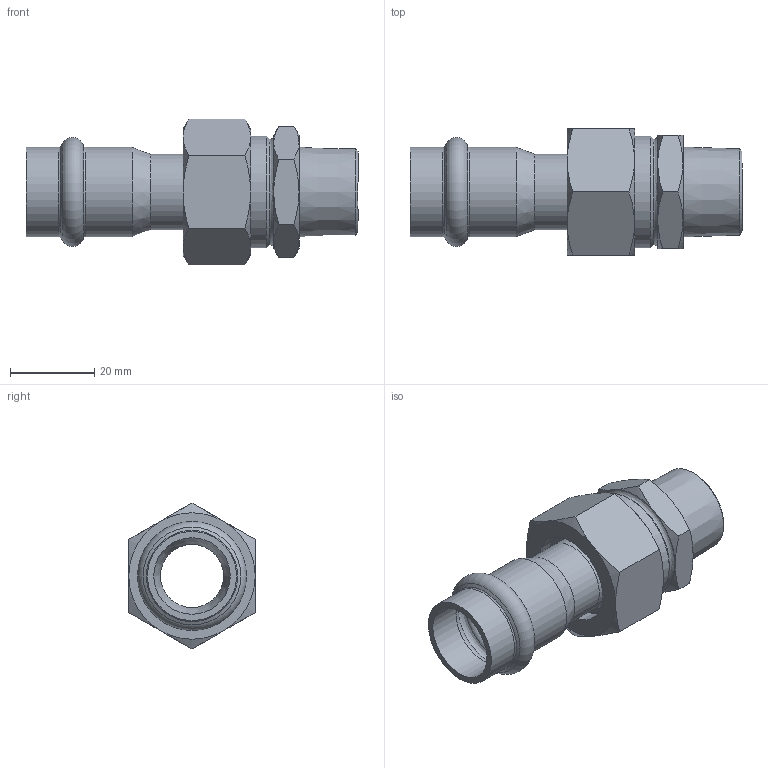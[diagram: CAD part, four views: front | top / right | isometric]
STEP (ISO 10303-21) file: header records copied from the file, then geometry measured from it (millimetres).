
FILE_DESCRIPTION((''),'2;1');
FILE_NAME('G:\Nirosan-Schmiedefeld\Technics\CAD\Bauteile VA\018\69333GMVA1812(3).stp','2011-06-30T11:13:17',('herberg'),(''),'Autodesk Inventor 2009','Autodesk Inventor 2009','');
FILE_SCHEMA(('AUTOMOTIVE_DESIGN { 1 0 10303 214 1 1 1 1 }'));
Length unit declared in the file: millimetre
Products named in the file (7): 69333GMVA1812(3); 69359m1834(3); HM_6924318(1); SM1834(2); R1834(0); FD_2417_EPDM(0); 69376G3412(1)
Assembly tree (6 placements, depth 3):
  69333GMVA1812(3)
    69359m1834(3)
      HM_6924318(1)
      SM1834(2)
      R1834(0)
      FD_2417_EPDM(0)
    69376G3412(1)
Bounding box: 78.8 x 30 x 34.64 mm (x, y, z)
Volume: 18352.2 mm3; surface area: 15508.8 mm2
Topology: 5 solids, 5 shells, 84 faces, 169 edges, 98 vertices
Faces by surface type: cone 34, plane 24, cylinder 12, bspline 11, torus 3
Full cylindrical faces by diameter (mm): 15 x2, 17 x1, 18 x2, 18.15 x2, 21.15 x2, 23 x1, 24 x1, 26.441 x1
Entity records: 2425 total; most frequent: CARTESIAN_POINT 761, DIRECTION 324, ORIENTED_EDGE 260, AXIS2_PLACEMENT_3D 156, EDGE_LOOP 132, EDGE_CURVE 130, VERTEX_POINT 94, FACE_OUTER_BOUND 84
